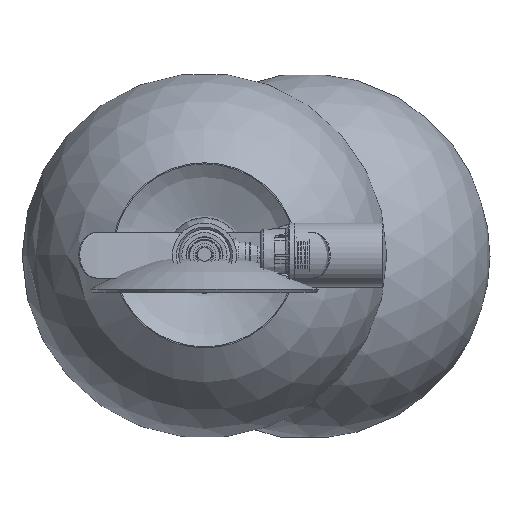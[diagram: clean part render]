
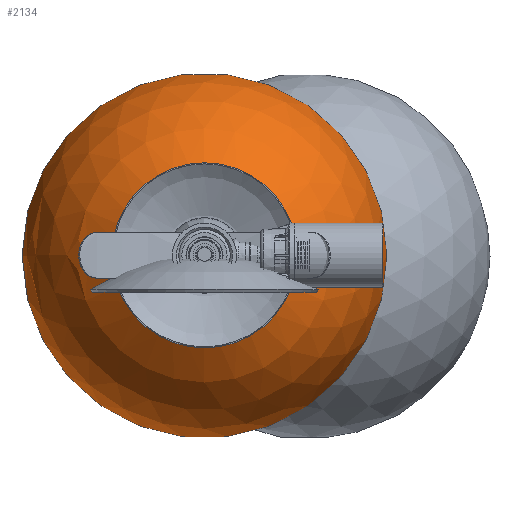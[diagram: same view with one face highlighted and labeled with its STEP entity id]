
A CAD part, top view. The second image highlights one B-rep face of the part: STEP entity #2134.
In plain terms, the highlighted spherical face has radius 80 mm.
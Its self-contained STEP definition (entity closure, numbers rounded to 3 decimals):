
#2134 = ADVANCED_FACE( '', ( #3937 ), #3938, .T. );
#3937 = FACE_OUTER_BOUND( '', #10036, .T. );
#3938 = SPHERICAL_SURFACE( '', #10037, 80. );
#10036 = EDGE_LOOP( '', ( #12632 ) );
#10037 = AXIS2_PLACEMENT_3D( '', #12633, #12634, #12635 );
#12632 = ORIENTED_EDGE( '', *, *, #15180, .T. );
#12633 = CARTESIAN_POINT( '', ( 0., 0., -80. ) );
#12634 = DIRECTION( '', ( 0., 0., -1. ) );
#12635 = DIRECTION( '', ( -1., 0., 0. ) );
#15180 = EDGE_CURVE( '', #16592, #16592, #16593, .F. );
#16592 = VERTEX_POINT( '', #19001 );
#16593 = CIRCLE( '', #19002, 40.485 );
#19001 = CARTESIAN_POINT( '', ( 40.485, 0., -11. ) );
#19002 = AXIS2_PLACEMENT_3D( '', #20441, #20442, #20443 );
#20441 = CARTESIAN_POINT( '', ( 0., 0., -11. ) );
#20442 = DIRECTION( '', ( 0., 0., 1. ) );
#20443 = DIRECTION( '', ( 1., 0., 0. ) );
